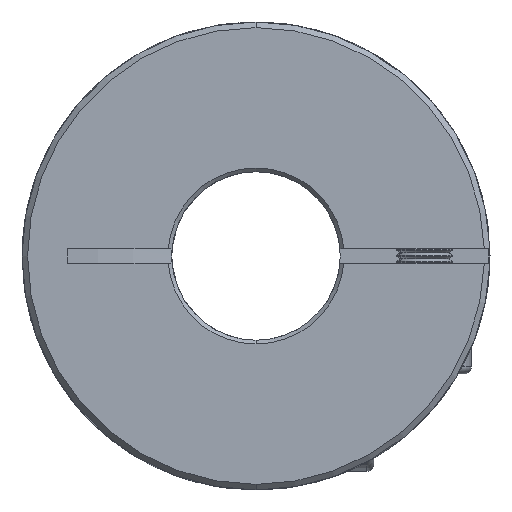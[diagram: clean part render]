
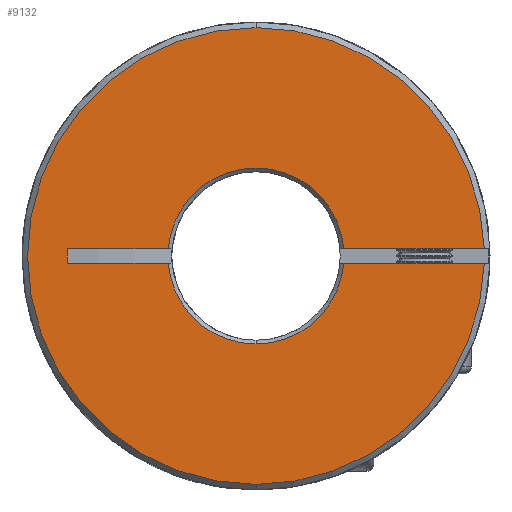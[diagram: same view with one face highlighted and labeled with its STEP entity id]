
A CAD part, front view. The second image highlights one B-rep face of the part: STEP entity #9132.
In plain terms, the highlighted planar face has unit normal (0, -1, 0).
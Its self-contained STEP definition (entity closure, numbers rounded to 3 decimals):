
#88 = EDGE_LOOP ( 'NONE', ( #15164, #4549, #4353, #15053, #5512, #2052, #8398, #14420, #16146, #1534, #4272 ) ) ;
#164 = VERTEX_POINT ( 'NONE', #15834 ) ;
#388 = CIRCLE ( 'NONE', #9843, 9.4 ) ;
#911 = EDGE_CURVE ( 'NONE', #10090, #4814, #5864, .T. ) ;
#1097 = CARTESIAN_POINT ( 'NONE',  ( 0., 0., 0. ) ) ;
#1384 = LINE ( 'NONE', #10092, #15260 ) ;
#1534 = ORIENTED_EDGE ( 'NONE', *, *, #13108, .T. ) ;
#1763 = VERTEX_POINT ( 'NONE', #5020 ) ;
#1917 = CARTESIAN_POINT ( 'NONE',  ( -50., 0., 0.75 ) ) ;
#1922 = DIRECTION ( 'NONE',  ( 0., 0., 1. ) ) ;
#2052 = ORIENTED_EDGE ( 'NONE', *, *, #5379, .T. ) ;
#2107 = DIRECTION ( 'NONE',  ( 0., 1., 0. ) ) ;
#2146 = DIRECTION ( 'NONE',  ( 0., -1., 0. ) ) ;
#2233 = DIRECTION ( 'NONE',  ( 1., 0., 0. ) ) ;
#2290 = CARTESIAN_POINT ( 'NONE',  ( 0., 0., 0. ) ) ;
#2456 = DIRECTION ( 'NONE',  ( 0., -1., 0. ) ) ;
#2482 = LINE ( 'NONE', #13837, #4780 ) ;
#2699 = CIRCLE ( 'NONE', #16721, 24.4 ) ;
#3421 = CARTESIAN_POINT ( 'NONE',  ( 9.37, 0., 0.75 ) ) ;
#4040 = VERTEX_POINT ( 'NONE', #14627 ) ;
#4272 = ORIENTED_EDGE ( 'NONE', *, *, #10503, .T. ) ;
#4353 = ORIENTED_EDGE ( 'NONE', *, *, #10739, .T. ) ;
#4540 = VECTOR ( 'NONE', #8938, 1000. ) ;
#4549 = ORIENTED_EDGE ( 'NONE', *, *, #12867, .T. ) ;
#4653 = AXIS2_PLACEMENT_3D ( 'NONE', #11567, #9108, #6169 ) ;
#4780 = VECTOR ( 'NONE', #12425, 1000. ) ;
#4814 = VERTEX_POINT ( 'NONE', #16970 ) ;
#4967 = DIRECTION ( 'NONE',  ( 0., 0., 1. ) ) ;
#5020 = CARTESIAN_POINT ( 'NONE',  ( 9.37, 0., -0.75 ) ) ;
#5379 = EDGE_CURVE ( 'NONE', #164, #4040, #15448, .T. ) ;
#5504 = CARTESIAN_POINT ( 'NONE',  ( 0., 0., -24.4 ) ) ;
#5512 = ORIENTED_EDGE ( 'NONE', *, *, #15518, .T. ) ;
#5864 = LINE ( 'NONE', #1917, #13434 ) ;
#6169 = DIRECTION ( 'NONE',  ( 0., 0., 1. ) ) ;
#6415 = CARTESIAN_POINT ( 'NONE',  ( -50., 0., 0.75 ) ) ;
#7201 = CARTESIAN_POINT ( 'NONE',  ( 0., 0., 0. ) ) ;
#7591 = FACE_OUTER_BOUND ( 'NONE', #88, .T. ) ;
#7709 = AXIS2_PLACEMENT_3D ( 'NONE', #2290, #12954, #8973 ) ;
#7777 = PLANE ( 'NONE',  #4653 ) ;
#7819 = VECTOR ( 'NONE', #2233, 1000. ) ;
#8002 = VERTEX_POINT ( 'NONE', #10784 ) ;
#8041 = VERTEX_POINT ( 'NONE', #5504 ) ;
#8145 = CARTESIAN_POINT ( 'NONE',  ( 0., 0., 0. ) ) ;
#8398 = ORIENTED_EDGE ( 'NONE', *, *, #10856, .T. ) ;
#8617 = DIRECTION ( 'NONE',  ( 0., 0., 1. ) ) ;
#8637 = CARTESIAN_POINT ( 'NONE',  ( -20.149, 0., -0.75 ) ) ;
#8813 = EDGE_CURVE ( 'NONE', #10691, #16082, #10317, .T. ) ;
#8938 = DIRECTION ( 'NONE',  ( 1., 0., 0. ) ) ;
#8973 = DIRECTION ( 'NONE',  ( 0., 0., 1. ) ) ;
#9108 = DIRECTION ( 'NONE',  ( 0., 1., 0. ) ) ;
#9132 = ADVANCED_FACE ( 'NONE', ( #7591 ), #7777, .F. ) ;
#9834 = CARTESIAN_POINT ( 'NONE',  ( -9.37, 0., -0.75 ) ) ;
#9843 = AXIS2_PLACEMENT_3D ( 'NONE', #10133, #2107, #12834 ) ;
#10090 = VERTEX_POINT ( 'NONE', #3421 ) ;
#10092 = CARTESIAN_POINT ( 'NONE',  ( -20.149, 0., -0.75 ) ) ;
#10133 = CARTESIAN_POINT ( 'NONE',  ( 0., 0., 0. ) ) ;
#10317 = LINE ( 'NONE', #14123, #7819 ) ;
#10503 = EDGE_CURVE ( 'NONE', #8041, #13340, #2699, .T. ) ;
#10691 = VERTEX_POINT ( 'NONE', #8637 ) ;
#10739 = EDGE_CURVE ( 'NONE', #8002, #16082, #388, .T. ) ;
#10784 = CARTESIAN_POINT ( 'NONE',  ( 0., 0., -9.4 ) ) ;
#10856 = EDGE_CURVE ( 'NONE', #4040, #10090, #12134, .T. ) ;
#11378 = DIRECTION ( 'NONE',  ( 0., 0., 1. ) ) ;
#11567 = CARTESIAN_POINT ( 'NONE',  ( -50., 0., 32.858 ) ) ;
#11843 = DIRECTION ( 'NONE',  ( 0., -1., 0. ) ) ;
#12134 = CIRCLE ( 'NONE', #7709, 9.4 ) ;
#12425 = DIRECTION ( 'NONE',  ( 1., 0., 0. ) ) ;
#12834 = DIRECTION ( 'NONE',  ( 0., 0., 1. ) ) ;
#12867 = EDGE_CURVE ( 'NONE', #1763, #8002, #16595, .T. ) ;
#12954 = DIRECTION ( 'NONE',  ( 0., 1., 0. ) ) ;
#13108 = EDGE_CURVE ( 'NONE', #17180, #8041, #17212, .T. ) ;
#13340 = VERTEX_POINT ( 'NONE', #14246 ) ;
#13434 = VECTOR ( 'NONE', #15364, 1000. ) ;
#13837 = CARTESIAN_POINT ( 'NONE',  ( -50., 0., -0.75 ) ) ;
#13990 = DIRECTION ( 'NONE',  ( 0., 1., 0. ) ) ;
#14053 = EDGE_CURVE ( 'NONE', #4814, #17180, #15720, .T. ) ;
#14123 = CARTESIAN_POINT ( 'NONE',  ( -50., 0., -0.75 ) ) ;
#14130 = AXIS2_PLACEMENT_3D ( 'NONE', #1097, #2456, #4967 ) ;
#14246 = CARTESIAN_POINT ( 'NONE',  ( 24.388, 0., -0.75 ) ) ;
#14265 = AXIS2_PLACEMENT_3D ( 'NONE', #17052, #11843, #14426 ) ;
#14420 = ORIENTED_EDGE ( 'NONE', *, *, #911, .T. ) ;
#14426 = DIRECTION ( 'NONE',  ( 0., 0., 1. ) ) ;
#14429 = EDGE_CURVE ( 'NONE', #1763, #13340, #2482, .T. ) ;
#14627 = CARTESIAN_POINT ( 'NONE',  ( -9.37, 0., 0.75 ) ) ;
#15053 = ORIENTED_EDGE ( 'NONE', *, *, #8813, .F. ) ;
#15164 = ORIENTED_EDGE ( 'NONE', *, *, #14429, .F. ) ;
#15260 = VECTOR ( 'NONE', #11378, 1000. ) ;
#15364 = DIRECTION ( 'NONE',  ( 1., 0., 0. ) ) ;
#15448 = LINE ( 'NONE', #6415, #4540 ) ;
#15518 = EDGE_CURVE ( 'NONE', #10691, #164, #1384, .T. ) ;
#15720 = CIRCLE ( 'NONE', #14265, 24.4 ) ;
#15834 = CARTESIAN_POINT ( 'NONE',  ( -20.149, 0., 0.75 ) ) ;
#16082 = VERTEX_POINT ( 'NONE', #9834 ) ;
#16146 = ORIENTED_EDGE ( 'NONE', *, *, #14053, .T. ) ;
#16277 = CARTESIAN_POINT ( 'NONE',  ( 0., 0., 24.4 ) ) ;
#16595 = CIRCLE ( 'NONE', #16648, 9.4 ) ;
#16648 = AXIS2_PLACEMENT_3D ( 'NONE', #8145, #13990, #1922 ) ;
#16721 = AXIS2_PLACEMENT_3D ( 'NONE', #7201, #2146, #8617 ) ;
#16970 = CARTESIAN_POINT ( 'NONE',  ( 24.388, 0., 0.75 ) ) ;
#17052 = CARTESIAN_POINT ( 'NONE',  ( 0., 0., 0. ) ) ;
#17180 = VERTEX_POINT ( 'NONE', #16277 ) ;
#17212 = CIRCLE ( 'NONE', #14130, 24.4 ) ;
